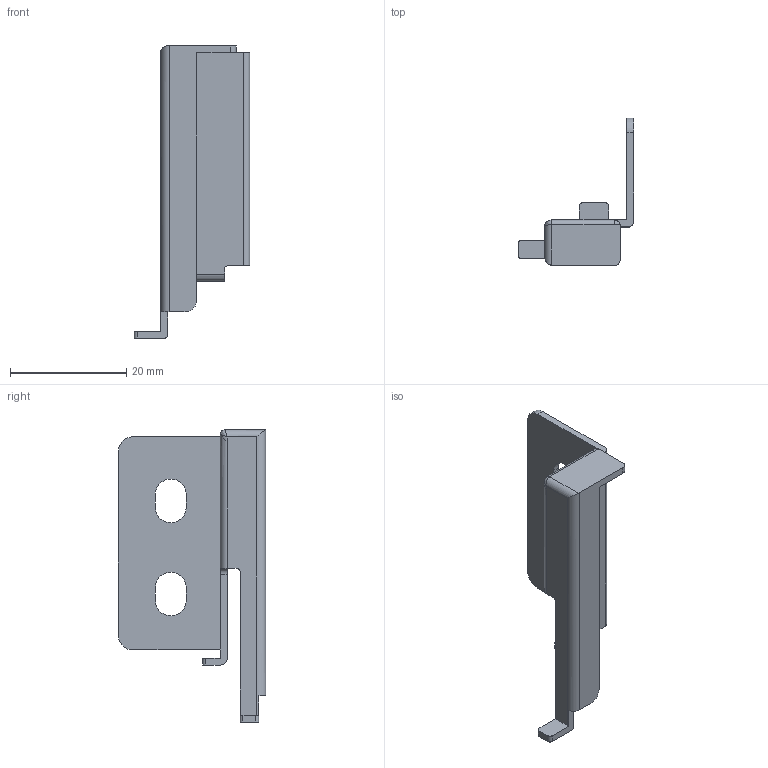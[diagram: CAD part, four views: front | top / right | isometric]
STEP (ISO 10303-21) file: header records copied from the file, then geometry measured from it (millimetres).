
FILE_DESCRIPTION (( 'STEP AP203' ), '1' );
FILE_NAME ('HT10031-R.STEP', '2021-03-30T00:57:17', ( 'Users' ), ( 'Microsoft' ), 'SwSTEP 2.0', 'SolidWorks 2018', '' );
FILE_SCHEMA (( 'CONFIG_CONTROL_DESIGN' ));
Length unit declared in the file: millimetre
Products named in the file (1): HT10031-R
Bounding box: 19.8 x 25.3 x 50.2 mm (x, y, z)
Volume: 1963 mm3; surface area: 3588.4 mm2
Topology: 1 solids, 1 shells, 57 faces, 160 edges, 104 vertices
Faces by surface type: plane 31, cylinder 25, bspline 1
Entity records: 1972 total; most frequent: CARTESIAN_POINT 398, ORIENTED_EDGE 318, DIRECTION 311, EDGE_CURVE 159, VECTOR 109, LINE 109, VERTEX_POINT 104, AXIS2_PLACEMENT_3D 101
